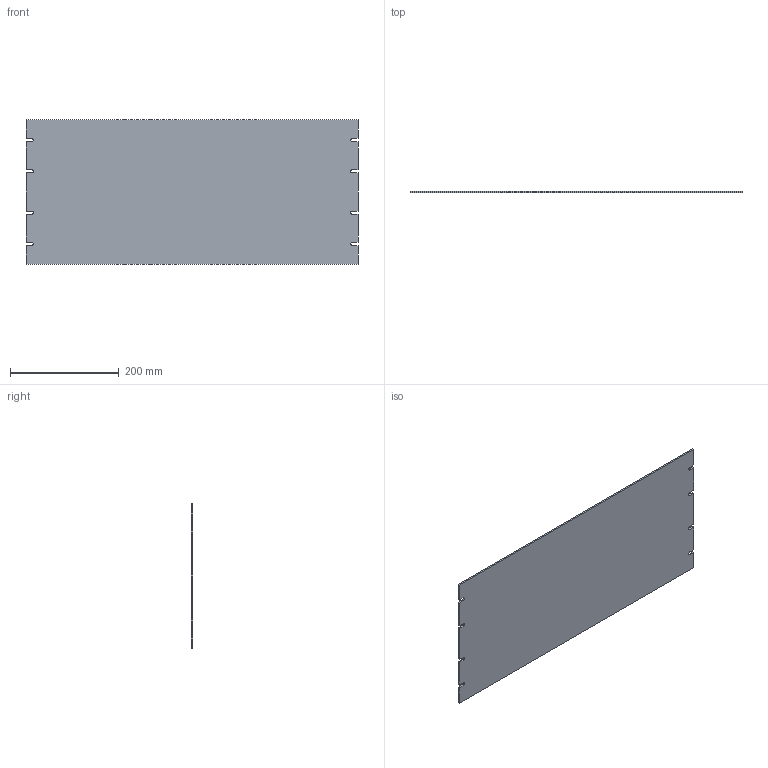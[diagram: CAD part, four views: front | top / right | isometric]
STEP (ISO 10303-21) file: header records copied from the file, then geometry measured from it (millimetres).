
FILE_DESCRIPTION( ( 'Unknown' ), '1' );
FILE_NAME( 'Q:/ACCESSORIES/PANELS/WEB DRAWINGS/STEP/PBPA24010.stp', 'Unknown', ( 'Unknown' ), ( 'Unknown' ), 'XStep 1.0', 'Unknown', ' ' );
FILE_SCHEMA( ( 'CONFIG_CONTROL_DESIGN' ) );
Length unit declared in the file: millimetre
Products named in the file (1): 1
Bounding box: 609.6 x 3.17 x 265.89 mm (x, y, z)
Volume: 512552.8 mm3; surface area: 329043.5 mm2
Topology: 1 solids, 1 shells, 38 faces, 108 edges, 72 vertices
Faces by surface type: plane 30, cylinder 8
Entity records: 1272 total; most frequent: CARTESIAN_POINT 219, ORIENTED_EDGE 216, DIRECTION 202, EDGE_CURVE 108, LINE 92, VECTOR 92, VERTEX_POINT 72, AXIS2_PLACEMENT_3D 55
